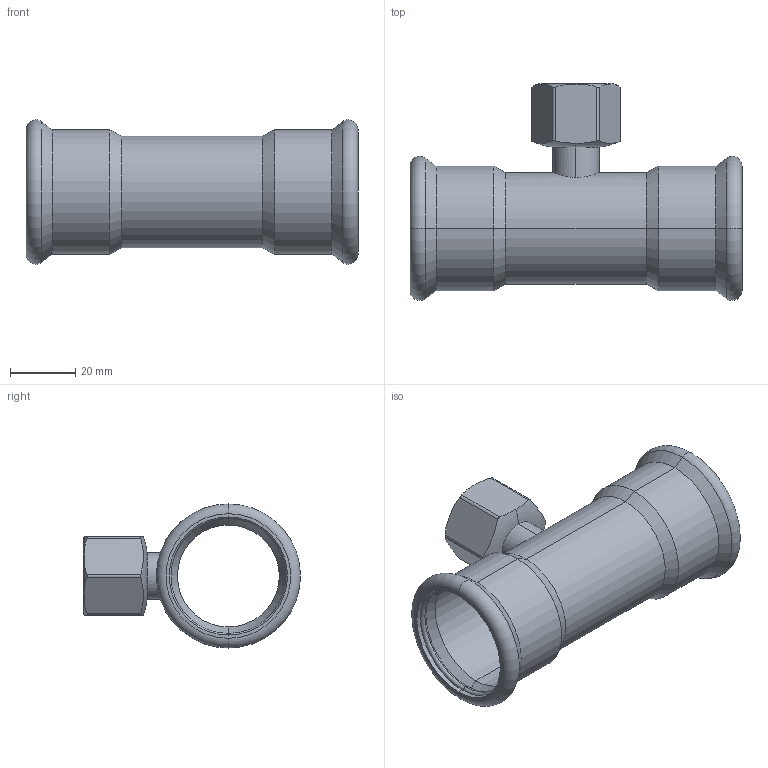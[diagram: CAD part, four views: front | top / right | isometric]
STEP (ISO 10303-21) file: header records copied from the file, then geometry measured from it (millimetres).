
FILE_DESCRIPTION (( 'STEP AP214' ), '1' );
FILE_NAME ('T35150F.STEP', '2025-08-17T14:03:46', ( '' ), ( '' ), 'SwSTEP 2.0', 'SolidWorks 2020', '' );
FILE_SCHEMA (( 'AUTOMOTIVE_DESIGN' ));
Length unit declared in the file: millimetre
Products named in the file (1): T35150F
Bounding box: 102 x 66.65 x 44.3 mm (x, y, z)
Volume: 23001.2 mm3; surface area: 30534.5 mm2
Topology: 3 solids, 3 shells, 104 faces, 249 edges, 150 vertices
Faces by surface type: cylinder 51, torus 20, cone 18, plane 12, bspline 3
Entity records: 6371 total; most frequent: CARTESIAN_POINT 2920, ORIENTED_EDGE 498, DIRECTION 454, EDGE_CURVE 249, AXIS2_PLACEMENT_3D 188, VERTEX_POINT 150, EDGE_LOOP 111, UNCERTAINTY_MEASURE_WITH_UNIT 109
